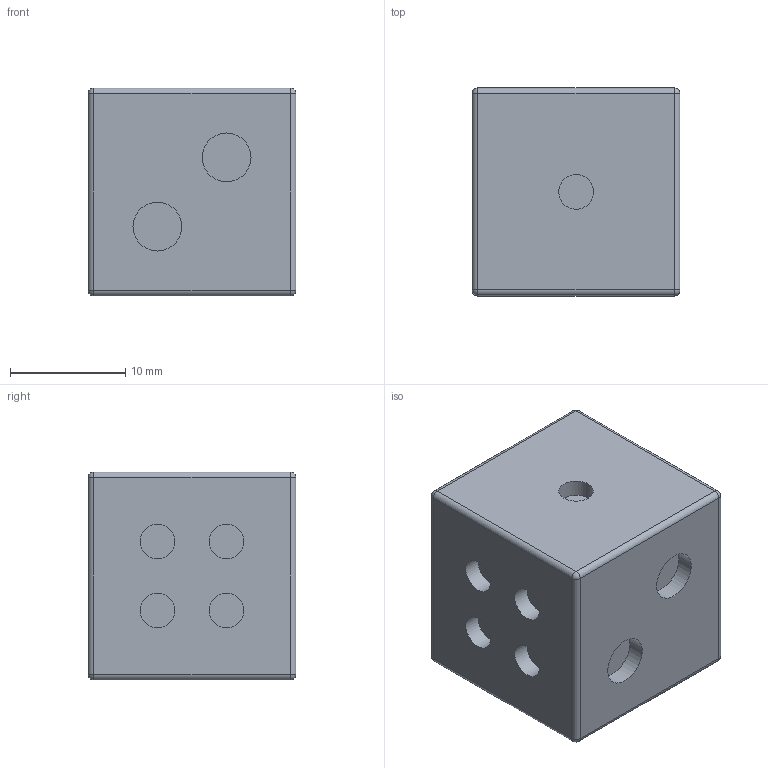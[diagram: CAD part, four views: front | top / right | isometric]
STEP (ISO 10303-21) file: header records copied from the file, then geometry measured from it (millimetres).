
FILE_DESCRIPTION(('FreeCAD Model'),'2;1');
FILE_NAME('Open CASCADE Shape Model','2026-10-15T16:02:49',('Author'),( ''),'Open CASCADE STEP processor 7.8','FreeCAD','Unknown');
FILE_SCHEMA(('AUTOMOTIVE_DESIGN { 1 0 10303 214 1 1 1 1 }'));
Length unit declared in the file: millimetre
Products named in the file (1): Cut006
Bounding box: 18 x 18 x 18 mm (x, y, z)
Volume: 5577.1 mm3; surface area: 2205.8 mm2
Topology: 1 solids, 1 shells, 68 faces, 119 edges, 66 vertices
Faces by surface type: cylinder 33, plane 27, sphere 8
Full cylindrical faces by diameter (mm): 3 x19, 4.223 x2
Entity records: 1590 total; most frequent: DIRECTION 312, CARTESIAN_POINT 249, ORIENTED_EDGE 222, AXIS2_PLACEMENT_3D 135, EDGE_CURVE 111, FACE_BOUND 89, EDGE_LOOP 89, ADVANCED_FACE 68
